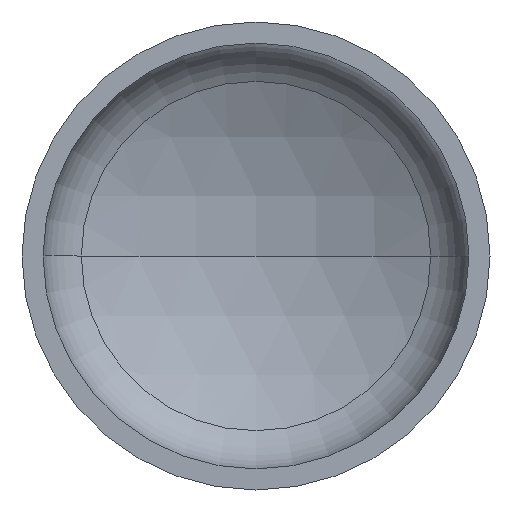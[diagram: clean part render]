
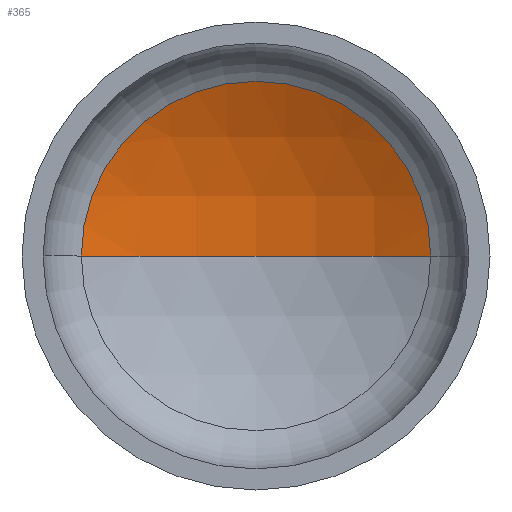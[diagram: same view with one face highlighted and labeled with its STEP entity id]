
A CAD part, front view. The second image highlights one B-rep face of the part: STEP entity #365.
In plain terms, the highlighted spherical face has radius 480 mm.
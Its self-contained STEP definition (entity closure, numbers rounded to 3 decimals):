
#9 = EDGE_LOOP ( 'NONE', ( #20, #57, #14 ) ) ;
#14 = ORIENTED_EDGE ( 'NONE', *, *, #346, .T. ) ;
#20 = ORIENTED_EDGE ( 'NONE', *, *, #323, .F. ) ;
#22 = CIRCLE ( 'NONE', #410, 480. ) ;
#29 = VERTEX_POINT ( 'NONE', #273 ) ;
#44 = VERTEX_POINT ( 'NONE', #235 ) ;
#45 = CARTESIAN_POINT ( 'NONE',  ( 0., 166.376, 0. ) ) ;
#47 = VERTEX_POINT ( 'NONE', #217 ) ;
#54 = AXIS2_PLACEMENT_3D ( 'NONE', #45, #334, #376 ) ;
#57 = ORIENTED_EDGE ( 'NONE', *, *, #337, .T. ) ;
#108 = DIRECTION ( 'NONE',  ( 0., 0., -1. ) ) ;
#117 = DIRECTION ( 'NONE',  ( -1., 0., 0. ) ) ;
#131 = CARTESIAN_POINT ( 'NONE',  ( 0., -258.195, 0. ) ) ;
#137 = CARTESIAN_POINT ( 'NONE',  ( 0., -258.195, 0. ) ) ;
#141 = CARTESIAN_POINT ( 'NONE',  ( 0., -258.195, 0. ) ) ;
#192 = AXIS2_PLACEMENT_3D ( 'NONE', #141, #395, #117 ) ;
#217 = CARTESIAN_POINT ( 'NONE',  ( -223.918, 166.376, 0. ) ) ;
#219 = FACE_OUTER_BOUND ( 'NONE', #9, .T. ) ;
#229 = CIRCLE ( 'NONE', #383, 480. ) ;
#235 = CARTESIAN_POINT ( 'NONE',  ( 223.918, 166.376, 0. ) ) ;
#255 = DIRECTION ( 'NONE',  ( 1., 0., 0. ) ) ;
#273 = CARTESIAN_POINT ( 'NONE',  ( 0., 221.805, 0. ) ) ;
#288 = CIRCLE ( 'NONE', #54, 223.918 ) ;
#306 = DIRECTION ( 'NONE',  ( -1., 0., 0. ) ) ;
#323 = EDGE_CURVE ( 'NONE', #29, #47, #229, .T. ) ;
#334 = DIRECTION ( 'NONE',  ( 0., -1., 0. ) ) ;
#337 = EDGE_CURVE ( 'NONE', #29, #44, #22, .T. ) ;
#345 = SPHERICAL_SURFACE ( 'NONE', #192, 480. ) ;
#346 = EDGE_CURVE ( 'NONE', #44, #47, #288, .T. ) ;
#365 = ADVANCED_FACE ( 'NONE', ( #219 ), #345, .F. ) ;
#376 = DIRECTION ( 'NONE',  ( 1., 0., 0. ) ) ;
#383 = AXIS2_PLACEMENT_3D ( 'NONE', #131, #398, #255 ) ;
#395 = DIRECTION ( 'NONE',  ( 0., 0., -1. ) ) ;
#398 = DIRECTION ( 'NONE',  ( 0., 0., 1. ) ) ;
#410 = AXIS2_PLACEMENT_3D ( 'NONE', #137, #108, #306 ) ;
